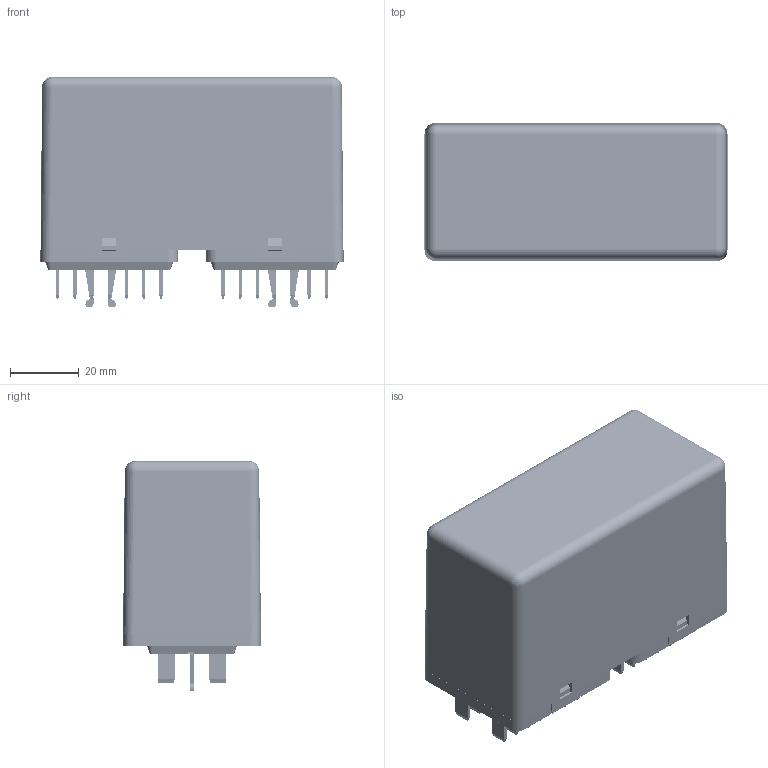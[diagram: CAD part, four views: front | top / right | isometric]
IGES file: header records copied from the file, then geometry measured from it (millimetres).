
Global section: file name: No Iges File Name specified; native system: Autodesk Inventor 2011; preprocessor: AutoDesk Inventor Iges Exporter R2011; author: oey; date: 20100922.115035; units: millimetre
Bounding box: 87.9 x 40.07 x 66.7 mm (x, y, z)
Volume: 86039.9 mm3; surface area: 109750.3 mm2
Topology: 132 solids, 132 shells, 5190 faces, 13880 edges, 8901 vertices
Faces by surface type: plane 2311, bspline 1199, cylinder 749, revolution 537, cone 162, sphere 156, torus 76
